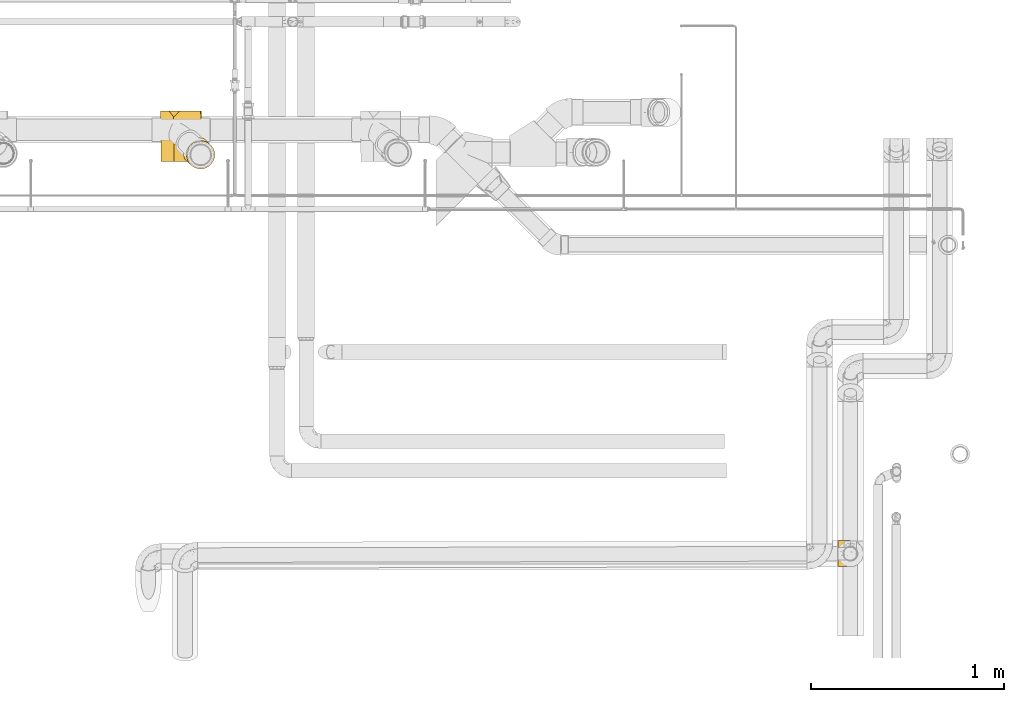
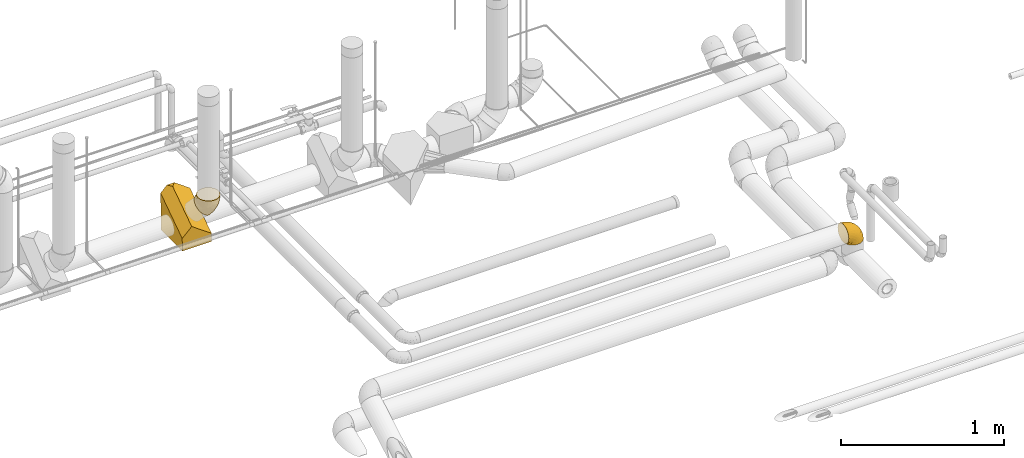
# One storey, part 20 of 156: 3 coverings.
"""IFC2X3 building model written with IfcOpenShell, lengths in millimetres."""

from ifc_helpers import new_model, entity, si_unit, converted_unit, derived_unit, direction, frame, origin_with_axes, place, context, subcontext, project, spatial, open_shell, surface_model, source, transform, mapped, element, save


model = new_model("IFC2X3")

# Units and contexts
model_context = context("Model", 3, precision=0.01, world=frame((0.0, 4.29681676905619e-09, 0.0)), true_north=direction((4.01073788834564e-13, 1.0)))
plan_context = context("Plan", 3, precision=0.01, world=frame((0.0, 4.29681676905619e-09, 0.0)), true_north=direction((4.01073788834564e-13, 1.0)))
body_context = subcontext(model_context, "Body", "Model", "MODEL_VIEW")
ifc_project = project(units=[converted_unit("PLANEANGLEUNIT", "DEGREE", entity("IfcPositiveLengthMeasure", 0.0174532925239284), si_unit("PLANEANGLEUNIT", "RADIAN"), dimensions=[0, 0, 0, 0, 0, 0, 0]), si_unit("AREAUNIT", "SQUARE_METRE"), si_unit("LENGTHUNIT", "METRE", prefix="MILLI"), si_unit("MASSUNIT", "GRAM", prefix="KILO"), si_unit("POWERUNIT", "WATT"), si_unit("PRESSUREUNIT", "PASCAL", prefix="KILO"), si_unit("FORCEUNIT", "NEWTON", prefix="KILO"), si_unit("ELECTRICVOLTAGEUNIT", "VOLT"), si_unit("ELECTRICCURRENTUNIT", "AMPERE"), si_unit("THERMODYNAMICTEMPERATUREUNIT", "DEGREE_CELSIUS"), si_unit("TIMEUNIT", "SECOND"), si_unit("VOLUMEUNIT", "CUBIC_METRE"), derived_unit("LINEARVELOCITYUNIT", [(si_unit("LENGTHUNIT", "METRE"), 1), (si_unit("TIMEUNIT", "SECOND"), -1)]), derived_unit("VOLUMETRICFLOWRATEUNIT", [(si_unit("VOLUMEUNIT", "CUBIC_METRE"), 1), (si_unit("TIMEUNIT", "SECOND"), -1)]), derived_unit("THERMALTRANSMITTANCEUNIT", [(si_unit("POWERUNIT", "WATT"), 1), (si_unit("THERMODYNAMICTEMPERATUREUNIT", "KELVIN"), -1), (si_unit("AREAUNIT", "SQUARE_METRE"), -1)]), derived_unit("SOUNDPRESSUREUNIT", [(si_unit("PRESSUREUNIT", "PASCAL"), 1)])], contexts=[model_context, plan_context])

# Site, building, storey
site_placement = place(None, frame((0.0, -4.29681676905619e-09, 0.0), z_axis=(0.0, 0.0, 1.0), x_axis=(1.0, 0.0, 0.0)))
site = spatial("IfcSite", under=ifc_project, at=site_placement, CompositionType="ELEMENT")
building_placement = place(site_placement, frame((0.0, 4.29681676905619e-09, 0.0), z_axis=(0.0, 0.0, 1.0), x_axis=(1.0, 0.0, 0.0)))
building = spatial("IfcBuilding", under=site, at=building_placement, Name="mc-building", CompositionType="ELEMENT")
storey_placement = place(building_placement, frame((0.0, 0.0, 205200.0), z_axis=(0.0, 0.0, 1.0), x_axis=(1.0, 0.0, 0.0)))
storey = spatial("IfcBuildingStorey", under=building, at=storey_placement, Name="Nivå D + 1,2 m", CompositionType="ELEMENT", Elevation=205200.0)

# Coverings
shared_shape_1 = source(origin_with_axes(), body_context, "Body", "SurfaceModel", [
    surface_model("IfcShellBasedSurfaceModel", [(-12.58122, 83.46225, 28.13327), (-7.77579, 78.6588, 40.8417), (-15.54062, 86.42042, 14.34271), (-12.58632, 83.46734, -28.11586), (-16.53996, 87.41936, 0.0), (15.55809, 55.33454, 67.90986), (25.31054, 45.58612, 72.0902), (-1.30927, 72.19494, 51.97971), (6.56966, 64.31926, 61.11944), (-7.78378, 78.66679, -40.82479), (15.54578, 55.34685, -67.90265), (-1.31968, 72.20536, -51.96498), (-15.54288, 86.42269, -14.32665), (6.5577, 64.33122, -61.10815), (35.44311, 35.45773, -73.5), (25.29918, 45.59747, -72.08701), (45.57567, 25.32935, -72.0902), (35.44311, 35.45773, 73.5), (45.58702, 25.318, 72.08701), (64.3285, 6.58425, 61.10815), (55.34044, 15.56861, 67.90265), (78.67, -7.75132, 40.82479), (83.46743, -12.54678, -28.13327), (83.47253, -12.55188, 28.11586), (72.20589, -1.28989, 51.96498), (86.42909, -15.50722, 14.32665), (87.42618, -16.50389, 0.0), (72.19548, -1.27948, -51.97971), (64.31655, 6.5962, -61.11944), (55.32812, 15.58092, -67.90986), (86.42683, -15.50496, -14.34271), (78.662, -7.74334, -40.8417), (-50.13446, 70.99555, -19.0232), (-50.13446, 63.65287, 36.75), (-50.13446, 73.5, 0.0), (-50.13446, 51.97235, -51.97235), (-50.13446, 63.65287, -36.75), (-50.13446, 36.75, -63.65287), (-50.13446, 19.0232, 70.99555), (-50.13446, 19.0232, -70.99555), (-50.13446, 51.97235, 51.97235), (-50.13446, 70.99555, 19.0232), (-50.13446, 36.75, 63.65287), (-50.13446, 0.0, 73.5), (-50.13446, 0.0, -73.5), (-50.13446, -19.0232, -70.99555), (-50.13446, -36.75, -63.65287), (-50.13446, -73.5, 0.0), (-50.13446, -63.65287, -36.75), (-50.13446, -51.97235, -51.97235), (-50.13446, -70.99555, -19.0232), (-50.13446, -36.75, 63.65287), (-50.13446, -19.0232, 70.99555), (-50.13446, -51.97235, 51.97235), (-50.13446, -63.65287, 36.75), (-50.13446, -70.99555, 19.0232), (11.56197, -25.2966, 63.05064), (39.27307, -8.17981, 64.02245), (3.4727, -8.38139, 70.98906), (-12.17956, -69.76078, 0.0), (4.89378, -61.98061, 22.17238), (24.316, -58.68689, 0.0), (40.23653, -21.85895, 55.62466), (50.53557, -29.58967, 42.25433), (-18.80932, 4.12513, 73.5), (57.94897, -40.70412, 0.0), (49.39801, -42.74077, 20.37742), (-20.62466, -26.92586, 67.16985), (-16.46998, -42.66536, 57.25209), (13.13668, -37.39216, 54.27597), (32.03731, -46.93845, 32.41921), (18.59715, -44.89215, 44.40922), (-0.76325, -57.73284, 35.37642), (-16.52493, -53.79354, 46.4087), (10.37995, 16.21925, 73.5), (-41.04347, 75.3088, 0.0), (-29.53815, 16.17325, 72.12135), (-16.18148, 66.52499, 46.63532), (-7.93843, 59.30425, 57.12057), (-1.68036, 33.89365, 70.33875), (-27.47525, 30.93385, 67.90515), (-24.24622, 82.26848, 0.0), (-23.33476, 78.00167, 21.34079), (-21.66437, 52.28372, 56.82324), (-36.78775, 45.92105, 58.31147), (-35.68906, 73.39263, 18.04955), (-36.79561, 59.74703, 44.74396), (-27.99075, 69.36555, 34.6544), (-39.44329, 67.50939, 31.40791), (-18.04555, 74.88335, 34.65411), (-9.79597, 45.50374, 64.41189), (-31.95248, 77.11759, 0.0), (-39.44416, 67.50758, -31.41131), (-27.99377, 69.3743, -34.63712), (-36.78867, 59.74854, -44.74397), (-35.68047, 73.39776, -18.04), (-18.04057, 74.89776, -34.6373), (-16.18779, 66.53644, -46.61941), (-16.39107, 20.02365, -72.04852), (-27.49162, 30.92973, -67.90515), (-1.71147, 33.89563, -70.33364), (-9.80109, 45.52096, -64.40221), (-21.66803, 52.29943, -56.81019), (-7.94652, 59.31916, -57.1069), (-18.80932, 4.12513, -73.5), (-36.78453, 45.92162, -58.31147), (-23.33685, 78.00639, -21.32394), (10.37995, 16.21925, -73.5), (46.48077, -17.34007, -55.88688), (46.40299, -29.46503, -45.43917), (18.22641, -44.64188, -44.89681), (17.54846, -34.95379, -54.77692), (31.28654, -13.92769, -63.74451), (4.83547, -11.67044, -69.93673), (-5.0537, -30.28535, -63.58969), (-17.49595, -44.84146, -55.64237), (-11.72485, -55.06044, -43.55954), (22.17646, -51.2777, -32.67406), (52.84467, -40.56066, -20.4785), (5.46979, -63.33464, -16.86672), (-15.50474, -63.93391, -29.88914), (58.22001, -30.59507, -33.66346)], [open_shell([[[0, 1, 2]], [[3, 4, 2]], [[3, 2, 1]], [[5, 6, 7]], [[7, 8, 5]], [[6, 1, 7]], [[3, 1, 6]], [[3, 6, 9]], [[10, 11, 9]], [[3, 12, 4]], [[13, 11, 10]], [[14, 15, 10]], [[9, 14, 10]], [[14, 9, 6]], [[6, 16, 14]], [[17, 18, 19]], [[20, 19, 18]], [[17, 19, 21]], [[17, 21, 22]], [[21, 23, 22]], [[21, 19, 24]], [[25, 26, 23]], [[27, 28, 29]], [[29, 16, 27]], [[27, 16, 22]], [[30, 22, 23]], [[31, 27, 22]], [[16, 17, 22]], [[26, 30, 23]], [[17, 16, 6]], [[32, 33, 34]], [[35, 32, 36]], [[33, 35, 37]], [[32, 35, 33]], [[38, 37, 39]], [[33, 38, 40]], [[33, 41, 34]], [[40, 38, 42]], [[37, 38, 33]], [[39, 43, 38]], [[39, 44, 43]], [[44, 45, 46]], [[47, 44, 46]], [[47, 46, 48]], [[48, 46, 49]], [[47, 48, 50]], [[43, 51, 52]], [[53, 51, 43]], [[54, 47, 55]], [[47, 54, 53]], [[44, 47, 53]], [[53, 43, 44]], [[56, 57, 58]], [[55, 47, 59]], [[60, 55, 59]], [[60, 59, 61]], [[20, 18, 58]], [[24, 62, 63]], [[52, 58, 64]], [[61, 65, 66]], [[21, 63, 23]], [[67, 68, 56]], [[52, 64, 43]], [[67, 58, 52]], [[51, 53, 68]], [[69, 56, 68]], [[51, 67, 52]], [[66, 60, 61]], [[70, 71, 72]], [[72, 71, 73]], [[19, 57, 62]], [[71, 70, 63]], [[25, 23, 66]], [[25, 65, 26]], [[70, 60, 66]], [[54, 72, 73]], [[71, 69, 73]], [[72, 54, 60]], [[74, 18, 17]], [[58, 74, 64]], [[58, 57, 20]], [[55, 60, 54]], [[58, 18, 74]], [[57, 19, 20]], [[62, 69, 71]], [[73, 68, 53]], [[19, 62, 24]], [[62, 57, 56]], [[53, 54, 73]], [[65, 25, 66]], [[60, 70, 72]], [[62, 71, 63]], [[66, 23, 63]], [[63, 70, 66]], [[63, 21, 24]], [[68, 67, 51]], [[58, 67, 56]], [[56, 69, 62]], [[73, 69, 68]], [[75, 34, 41]], [[43, 64, 76]], [[7, 77, 78]], [[79, 80, 76]], [[2, 81, 82]], [[80, 83, 84]], [[75, 41, 85]], [[84, 86, 40]], [[82, 85, 87]], [[86, 33, 40]], [[86, 87, 88]], [[33, 86, 88]], [[78, 77, 83]], [[88, 41, 33]], [[64, 74, 79]], [[80, 84, 42]], [[0, 89, 1]], [[8, 90, 5]], [[6, 5, 79]], [[6, 74, 17]], [[85, 91, 75]], [[90, 8, 78]], [[80, 79, 90]], [[42, 38, 80]], [[7, 1, 77]], [[40, 42, 84]], [[91, 85, 82]], [[86, 77, 87]], [[76, 80, 38]], [[77, 89, 87]], [[0, 2, 82]], [[82, 87, 89]], [[87, 85, 88]], [[79, 74, 6]], [[41, 88, 85]], [[77, 86, 83]], [[86, 84, 83]], [[1, 89, 77]], [[0, 82, 89]], [[90, 78, 83]], [[7, 78, 8]], [[80, 90, 83]], [[5, 90, 79]], [[81, 2, 4]], [[81, 91, 82]], [[43, 76, 38]], [[79, 76, 64]], [[92, 93, 94]], [[32, 75, 95]], [[96, 9, 97]], [[81, 4, 12]], [[98, 99, 100]], [[101, 102, 103]], [[44, 39, 104]], [[97, 94, 93]], [[101, 99, 102]], [[32, 95, 92]], [[105, 37, 35]], [[39, 37, 99]], [[94, 97, 102]], [[95, 106, 93]], [[12, 3, 106]], [[94, 105, 35]], [[102, 97, 103]], [[100, 101, 10]], [[3, 9, 96]], [[9, 11, 97]], [[36, 94, 35]], [[92, 94, 36]], [[96, 93, 106]], [[103, 11, 13]], [[99, 98, 39]], [[10, 15, 100]], [[15, 14, 107]], [[95, 91, 106]], [[99, 37, 105]], [[107, 100, 15]], [[98, 107, 104]], [[107, 98, 100]], [[32, 92, 36]], [[12, 106, 81]], [[95, 93, 92]], [[105, 94, 102]], [[99, 105, 102]], [[93, 96, 97]], [[3, 96, 106]], [[11, 103, 97]], [[13, 10, 101]], [[101, 103, 13]], [[99, 101, 100]], [[106, 91, 81]], [[75, 32, 34]], [[75, 91, 95]], [[39, 98, 104]], [[28, 27, 108]], [[109, 110, 111]], [[45, 44, 104]], [[112, 108, 111]], [[16, 29, 113]], [[114, 113, 112]], [[115, 116, 49]], [[113, 114, 45]], [[47, 50, 59]], [[115, 111, 110]], [[117, 118, 119]], [[61, 59, 119]], [[116, 48, 49]], [[116, 120, 48]], [[45, 114, 46]], [[115, 46, 114]], [[113, 104, 107]], [[115, 114, 111]], [[107, 14, 16]], [[117, 119, 120]], [[28, 108, 112]], [[59, 50, 119]], [[113, 29, 112]], [[113, 45, 104]], [[120, 50, 48]], [[27, 31, 109]], [[118, 121, 22]], [[111, 108, 109]], [[110, 117, 116]], [[61, 119, 118]], [[30, 26, 65]], [[61, 118, 65]], [[30, 65, 118]], [[117, 109, 121]], [[31, 22, 121]], [[30, 118, 22]], [[114, 112, 111]], [[113, 107, 16]], [[109, 108, 27]], [[112, 29, 28]], [[46, 115, 49]], [[117, 120, 116]], [[50, 120, 119]], [[117, 121, 118]], [[31, 121, 109]], [[117, 110, 109]], [[115, 110, 116]]])]),
])
covering_1_placement = place(storey_placement, frame((326488.40178, 462595.06172, 4377.05914), z_axis=(0.698904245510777, 0.7152152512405, 0.0), x_axis=(0.0, 0.0, -1.0)))
element("IfcCovering", 1, at=covering_1_placement, inside=storey, Name="BI17T - Cellegummi 13 mm SPV fett", PredefinedType="INSULATION", context=body_context, shape_type="MappedRepresentation", body=[
    mapped(shared_shape_1, transform((0.0, 0.0, 0.0), scale=1.0)),
])
shared_shape_2 = source(origin_with_axes(), body_context, "Body", "SurfaceModel", [
    surface_model("IfcShellBasedSurfaceModel", [(-72.06096, -92.30912, 183.72004), (-72.06096, -92.30912, -134.94267), (-3.52579, -145.35116, -97.40325), (-3.52579, -145.35116, 183.18767), (-26.32132, -127.7088, 208.77343), (135.48422, -61.26991, 161.75266), (26.83764, -126.98562, 208.26162), (135.48422, -61.26991, -156.91004), (135.48422, 138.164, 20.60738), (135.48422, -12.09908, -191.7097), (-72.06096, 135.34049, 22.60566), (-72.06096, -14.92258, -189.71142)], [open_shell([[[0, 1, 2]], [[0, 3, 4]], [[3, 0, 2]], [[3, 2, 5]], [[3, 5, 6]], [[5, 2, 7]], [[5, 7, 8]], [[9, 8, 7]], [[6, 0, 4]], [[0, 6, 5]], [[5, 8, 10]], [[5, 10, 0]], [[4, 3, 6]], [[2, 1, 7]], [[7, 11, 9]], [[11, 7, 1]], [[8, 9, 10]], [[11, 10, 9]], [[1, 0, 10]], [[10, 11, 1]]])]),
])
covering_2_placement = place(storey_placement, frame((326355.67931, 462724.75736, 4191.56572000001), z_axis=(-0.00962699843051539, 0.816256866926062, 0.577608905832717), x_axis=(0.999861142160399, 3.14643345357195e-07, 0.0166642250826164)))
element("IfcCovering", 2, at=covering_2_placement, inside=storey, Name="BI17T - Cellegummi 13 mm SPV fett", PredefinedType="INSULATION", context=body_context, shape_type="MappedRepresentation", body=[
    mapped(shared_shape_2, transform((0.0, 0.0, 0.0), scale=1.0)),
])
shared_shape_3 = source(origin_with_axes(), body_context, "Body", "SurfaceModel", [
    surface_model("IfcShellBasedSurfaceModel", [(62.36357, 65.0, 25.82703), (66.2036, 65.0, 13.1656), (47.7349, 65.0, 47.72452), (56.12755, 65.0, 37.49598), (-64.81475, 65.0, -18.84935), (-64.81475, 65.0, 18.84935), (-59.31267, 65.0, 32.22201), (66.20209, 65.0, -13.1732), (67.5, 65.0, 0.0), (56.11983, 65.0, -37.50754), (62.35913, 65.0, -25.83774), (37.49598, 65.0, -56.12755), (25.82703, 65.0, -62.36357), (47.72452, 65.0, -47.7349), (-40.52239, 65.0, -53.98321), (-51.09064, 65.0, -44.11345), (-59.31419, 65.0, -32.21921), (-28.09443, 65.0, -61.37551), (-14.37712, 65.0, -65.95111), (13.1656, 65.0, -66.2036), (-65.0, 64.81475, -18.84935), (-65.0, 57.87557, -34.73714), (-65.0, 47.11836, -48.33333), (-65.0, 33.25277, -58.74099), (-65.0, 17.19351, -65.27353), (-65.0, 57.87557, 34.73714), (-65.0, 33.25277, 58.74099), (-65.0, 47.11836, 48.33333), (-65.0, 0.0, 67.5), (-65.0, 17.19351, 65.27353), (-65.0, 0.0, -67.5), (-65.0, -17.47029, -65.19999), (-65.0, -67.5, 0.0), (-65.0, -58.45672, -33.75), (-65.0, -33.75, -58.45672), (-65.0, -47.72971, -47.72971), (-65.0, -65.19999, -17.47029), (-65.0, -33.75, 58.45672), (-65.0, -47.72971, 47.72971), (-65.0, -17.47029, 65.19999), (-65.0, -58.45672, 33.75), (-65.0, -65.19999, 17.47029), (-65.0, 64.81475, 18.84935), (-64.86901, 64.86901, 18.84935), (-64.86901, 64.86901, -18.84935), (-62.35297, 53.22925, -41.88204), (-63.78423, 60.63473, -29.99667), (-59.45918, 54.28289, -41.88204), (-51.69965, 42.79725, -55.00915), (-58.92632, 41.28656, -53.98417), (-64.97489, 64.82515, -18.84935), (-60.99561, 60.00362, -33.50592), (-62.83434, 60.76841, -30.4404), (-64.90176, 64.85544, -18.84935), (-50.86682, 28.04405, -62.52499), (-57.92381, 24.04777, -63.29908), (-50.90167, 14.37918, -66.34141), (-37.08653, 31.39033, -64.04773), (-29.58182, 11.99295, -67.5), (-40.36853, 19.80167, -66.13096), (-55.46376, 1.89688, -67.5), (-54.1914, 53.04137, -46.55035), (-23.48796, 51.53459, -64.03169), (-35.44219, 58.51372, -57.87452), (0.0, 65.0, -67.5), (-1.89688, 55.46376, -67.5), (-19.03806, 19.03806, -67.5), (-28.84083, 40.49015, -64.04563), (-45.93357, 58.13982, -50.54557), (-64.83555, 64.94978, -18.84935), (-43.55475, 44.96694, -57.31565), (-4.94783, 40.12558, -67.5), (-64.85228, 64.9094, -18.84935), (-55.95504, 62.1673, -38.38718), (-59.35288, 60.73167, -34.6609), (-37.17686, 51.38247, -58.29815), (-49.05026, 54.8073, -49.33215), (-11.99295, 29.58182, -67.5), (-64.9345, 64.84188, -18.84935), (-40.12558, 4.94783, -67.5), (-52.74634, 2.4374, -67.5), (-42.51157, -9.52295, -66.2671), (62.98517, 30.70648, 0.0), (60.34861, 32.11006, -19.59988), (7.28209, 26.69247, -65.37446), (17.51571, 46.37925, -64.59456), (25.45053, 30.47784, -59.53215), (-9.86721, -24.12514, -54.51842), (-12.17277, -41.13061, -41.0914), (-38.26551, -37.66767, -53.55135), (-32.07934, -19.65533, -62.36187), (-9.01246, -1.18966, -63.9192), (38.39188, 36.73619, -52.6938), (30.43395, 48.7077, -59.53215), (-49.4847, -21.90434, -63.359), (28.69165, -28.69165, 0.0), (38.50326, -14.42084, -16.45739), (49.74837, -1.25, 0.0), (-26.34544, -2.34013, -66.30486), (-28.9987, -57.16772, -25.83113), (-40.01142, -50.88785, -41.0914), (-40.23864, -63.93244, -12.73067), (13.27406, -37.00874, -22.67012), (18.34903, -3.39087, -52.18245), (35.48999, 13.46262, -47.52341), (28.03747, -10.89182, -39.04005), (-2.47392, 52.56279, -67.5), (13.31742, 11.06376, -60.42055), (48.33699, 35.26235, -42.82742), (1.25, -49.74837, 0.0), (55.58243, 33.90777, -31.82524), (47.1962, 10.97433, -31.82591), (10.54857, -30.74404, -36.21718), (1.99991, -27.22627, -46.43081), (-14.75381, -56.30503, -12.67322), (-7.01775, -49.35414, -23.6696), (51.32465, 7.6704, -19.29111), (-30.70648, -62.98517, 0.0), (0.244, 12.31909, -64.81242), (3.6701, -5.45972, -58.66435), (36.98055, -9.37937, -28.42458), (48.52829, 33.96524, 42.18547), (51.34601, 20.59434, 31.81466), (57.75615, 44.0433, 31.81466), (-28.34115, -60.77084, 14.13005), (-16.26073, -52.66703, 25.83113), (-42.88385, -60.42696, 25.83113), (37.5083, -13.65738, 20.81995), (22.2387, 22.99208, 59.52614), (16.82988, 43.52884, 64.59175), (5.27267, 25.31169, 65.6474), (35.12366, 13.6505, 47.93511), (15.62004, -0.76277, 55.06473), (25.58961, -9.33201, 42.81638), (-34.31666, -49.51181, 41.0914), (-2.14331, -36.32511, 40.18049), (-17.725, -29.97609, 53.55135), (-5.8464, -51.68872, 14.94009), (14.49533, -38.60032, 15.96281), (39.0394, -2.37839, 32.87761), (-42.65822, -9.03699, 66.36346), (-39.32482, -22.1268, 62.36187), (-52.74634, 2.4374, 67.5), (18.51015, -28.28032, 30.53115), (-42.63776, -38.70783, 53.55135), (52.44199, 9.85636, 19.0918), (61.41574, 36.47263, 19.59063), (39.29703, 37.63428, 52.17338), (37.50754, 65.0, 56.11983), (25.83774, 65.0, 62.35913), (13.1732, 65.0, 66.20209), (28.75854, 40.82432, 59.5265), (-0.80851, -10.86712, 58.08848), (-25.06949, -14.2506, 63.18685), (-6.08758, 12.63645, 66.07007), (-29.58182, 11.99295, 67.5), (-27.583, -2.4399, 66.40218), (-40.12558, 4.94783, 67.5), (-2.47392, 52.56279, 67.5), (-4.94783, 40.12558, 67.5), (8.13231, 9.85971, 62.04196), (4.6081, -20.53967, 50.05704), (-11.99295, 29.58182, 67.5), (-19.03806, 19.03806, 67.5), (-12.13012, -4.71198, 63.64217), (0.0, 65.0, 67.5), (-55.46376, 1.89688, 67.5), (-51.31051, 50.10809, 50.51452), (-58.83063, 56.06256, 40.31262), (-53.07544, 43.62194, 53.98417), (-61.39668, 53.48595, 41.88204), (-59.33203, 41.18634, 53.98417), (-38.67692, 30.21324, 64.02579), (-40.80843, 18.77841, 66.26938), (-53.18292, 27.23963, 62.52499), (-62.39323, 61.71268, 29.30964), (-62.71992, 60.35042, 31.2673), (-24.35909, 37.3903, 65.60842), (-55.876, 57.84764, 41.27918), (-48.33586, 52.86998, 50.85179), (-52.15697, 58.33043, 44.75633), (-50.72259, 13.73618, 66.46323), (-63.72097, 60.14876, 30.95628), (-23.37818, 51.86775, 64.03271), (-1.89688, 55.46376, 67.5), (-14.37401, 65.0, 65.95178), (-38.9734, 49.10623, 58.01476), (-28.09151, 65.0, 61.37685), (-40.51981, 65.0, 53.98514), (-36.16929, 55.0609, 58.01476), (-61.49541, 62.05581, 30.08872), (-64.85228, 64.9094, 18.84935), (-46.94651, 59.30387, 49.33434), (-64.83555, 64.94978, 18.84935), (-57.76525, 62.98421, 35.37213), (-51.08854, 65.0, 44.11588), (-59.8704, 62.17048, 32.53464), (-45.47025, 40.87928, 58.33251), (-64.9094, 64.85228, 18.84935), (-64.94978, 64.83555, 18.84935)], [open_shell([[[0, 1, 2]], [[2, 3, 0]], [[4, 5, 6]], [[7, 4, 8]], [[9, 7, 10]], [[11, 12, 13]], [[13, 7, 9]], [[14, 15, 4]], [[16, 4, 15]], [[14, 4, 17]], [[17, 4, 18]], [[4, 12, 19]], [[8, 4, 1]], [[20, 21, 22]], [[22, 23, 24]], [[25, 26, 27]], [[26, 28, 29]], [[22, 24, 30]], [[31, 32, 22]], [[33, 31, 34]], [[31, 33, 32]], [[33, 34, 35]], [[36, 32, 33]], [[37, 32, 38]], [[39, 28, 37]], [[40, 32, 41]], [[32, 40, 38]], [[31, 22, 30]], [[20, 42, 43]], [[44, 20, 43]], [[5, 4, 43]], [[44, 43, 4]], [[45, 46, 47]], [[48, 49, 47]], [[21, 20, 50]], [[45, 49, 22]], [[51, 52, 53]], [[49, 54, 55]], [[24, 55, 56]], [[57, 58, 59]], [[56, 55, 54]], [[24, 56, 60]], [[47, 61, 48]], [[17, 62, 63]], [[21, 45, 22]], [[18, 64, 65]], [[66, 57, 67]], [[68, 14, 63]], [[14, 68, 15]], [[49, 23, 22]], [[49, 48, 54]], [[69, 4, 16]], [[51, 61, 47]], [[57, 70, 67]], [[71, 62, 65]], [[72, 73, 74]], [[16, 73, 69]], [[18, 65, 62]], [[18, 62, 17]], [[56, 54, 59]], [[62, 75, 63]], [[16, 15, 73]], [[74, 76, 61]], [[48, 57, 54]], [[70, 48, 61]], [[75, 70, 76]], [[50, 46, 21]], [[49, 45, 47]], [[61, 51, 74]], [[70, 61, 76]], [[72, 69, 73]], [[73, 76, 74]], [[67, 75, 62]], [[48, 70, 57]], [[67, 71, 77]], [[46, 50, 78]], [[60, 56, 79]], [[60, 30, 24]], [[59, 54, 57]], [[74, 44, 72]], [[79, 56, 59]], [[52, 47, 46]], [[44, 74, 51]], [[70, 75, 67]], [[68, 63, 75]], [[75, 76, 68]], [[17, 63, 14]], [[76, 73, 68]], [[15, 68, 73]], [[46, 78, 52]], [[21, 46, 45]], [[53, 44, 51]], [[51, 47, 52]], [[52, 78, 53]], [[24, 23, 55]], [[49, 55, 23]], [[58, 57, 66]], [[58, 79, 59]], [[71, 67, 62]], [[77, 66, 67]], [[80, 81, 31]], [[80, 79, 81]], [[7, 82, 83]], [[84, 85, 86]], [[87, 88, 89]], [[87, 90, 91]], [[92, 86, 93]], [[81, 94, 31]], [[95, 96, 97]], [[12, 85, 19]], [[66, 91, 98]], [[10, 7, 83]], [[99, 33, 100]], [[36, 101, 32]], [[96, 95, 102]], [[33, 99, 36]], [[33, 35, 100]], [[34, 89, 35]], [[94, 89, 34]], [[103, 104, 105]], [[64, 19, 106]], [[86, 104, 107]], [[13, 9, 108]], [[92, 13, 108]], [[95, 109, 102]], [[110, 83, 111]], [[93, 85, 12]], [[19, 85, 106]], [[112, 88, 113]], [[114, 101, 99]], [[102, 109, 114]], [[115, 88, 112]], [[97, 96, 116]], [[114, 109, 117]], [[92, 104, 86]], [[116, 82, 97]], [[10, 110, 9]], [[118, 119, 91]], [[7, 8, 82]], [[108, 110, 111]], [[103, 107, 104]], [[84, 71, 85]], [[87, 89, 90]], [[11, 93, 12]], [[100, 89, 88]], [[118, 77, 84]], [[102, 112, 120]], [[83, 116, 111]], [[98, 90, 81]], [[113, 105, 112]], [[84, 107, 118]], [[107, 84, 86]], [[11, 13, 92]], [[85, 93, 86]], [[92, 93, 11]], [[92, 108, 104]], [[108, 111, 104]], [[105, 104, 111]], [[120, 105, 111]], [[105, 120, 112]], [[89, 100, 35]], [[99, 100, 88]], [[31, 30, 80]], [[98, 81, 79]], [[81, 90, 94]], [[98, 79, 58]], [[90, 98, 91]], [[89, 94, 90]], [[34, 31, 94]], [[119, 107, 103]], [[107, 119, 118]], [[101, 114, 117]], [[115, 114, 99]], [[32, 101, 117]], [[99, 101, 36]], [[113, 119, 103]], [[66, 98, 58]], [[87, 91, 119]], [[91, 66, 118]], [[116, 83, 82]], [[88, 115, 99]], [[102, 114, 115]], [[9, 110, 108]], [[10, 83, 110]], [[85, 71, 106]], [[77, 118, 66]], [[77, 71, 84]], [[120, 116, 96]], [[116, 120, 111]], [[102, 120, 96]], [[115, 112, 102]], [[113, 88, 87]], [[119, 113, 87]], [[105, 113, 103]], [[121, 122, 123]], [[32, 117, 124]], [[124, 125, 126]], [[97, 127, 95]], [[128, 129, 130]], [[131, 132, 133]], [[134, 135, 136]], [[137, 138, 125]], [[133, 139, 131]], [[109, 95, 138]], [[140, 39, 141]], [[39, 140, 142]], [[143, 138, 127]], [[144, 141, 37]], [[37, 38, 144]], [[126, 40, 41]], [[131, 139, 122]], [[40, 126, 134]], [[37, 141, 39]], [[95, 127, 138]], [[122, 145, 146]], [[144, 134, 136]], [[121, 2, 147]], [[139, 127, 145]], [[1, 0, 146]], [[2, 148, 147]], [[129, 149, 150]], [[146, 0, 123]], [[8, 1, 82]], [[149, 151, 148]], [[152, 153, 136]], [[40, 134, 38]], [[154, 155, 156]], [[129, 128, 151]], [[157, 140, 156]], [[131, 122, 121]], [[150, 158, 129]], [[145, 82, 146]], [[130, 129, 159]], [[151, 128, 147]], [[82, 1, 146]], [[139, 145, 122]], [[132, 128, 160]], [[3, 123, 0]], [[135, 134, 125]], [[136, 135, 161]], [[143, 133, 135]], [[137, 125, 124]], [[143, 125, 138]], [[161, 133, 132]], [[3, 2, 121]], [[146, 123, 122]], [[121, 123, 3]], [[121, 147, 131]], [[147, 128, 131]], [[132, 131, 128]], [[160, 128, 130]], [[152, 136, 161]], [[154, 162, 163]], [[130, 154, 160]], [[134, 144, 38]], [[141, 144, 136]], [[142, 140, 157]], [[142, 28, 39]], [[156, 153, 164]], [[153, 140, 141]], [[156, 164, 154]], [[127, 97, 145]], [[155, 157, 156]], [[82, 145, 97]], [[143, 127, 139]], [[125, 143, 135]], [[140, 153, 156]], [[136, 153, 141]], [[41, 32, 124]], [[134, 126, 125]], [[41, 124, 126]], [[137, 117, 109]], [[117, 137, 124]], [[109, 138, 137]], [[162, 154, 130]], [[152, 160, 164]], [[154, 163, 155]], [[164, 160, 154]], [[133, 161, 135]], [[152, 161, 132]], [[160, 152, 132]], [[152, 164, 153]], [[148, 151, 147]], [[149, 129, 151]], [[158, 150, 165]], [[158, 159, 129]], [[143, 139, 133]], [[130, 159, 162]], [[29, 28, 166]], [[167, 168, 169]], [[169, 170, 171]], [[171, 27, 26]], [[172, 173, 155]], [[172, 169, 174]], [[168, 175, 176]], [[177, 172, 163]], [[171, 26, 174]], [[178, 179, 180]], [[168, 170, 169]], [[170, 25, 27]], [[174, 181, 173]], [[182, 170, 176]], [[183, 184, 185]], [[186, 180, 179]], [[187, 188, 189]], [[43, 190, 191]], [[177, 183, 186]], [[189, 188, 192]], [[6, 5, 193]], [[183, 177, 159]], [[26, 29, 174]], [[194, 195, 6]], [[185, 184, 165]], [[192, 188, 195]], [[167, 178, 168]], [[186, 183, 189]], [[190, 178, 196]], [[187, 183, 185]], [[181, 166, 157]], [[42, 25, 182]], [[186, 179, 197]], [[169, 171, 174]], [[159, 184, 183]], [[170, 27, 171]], [[177, 186, 197]], [[177, 163, 162]], [[43, 175, 190]], [[175, 178, 190]], [[173, 181, 157]], [[166, 181, 29]], [[29, 181, 174]], [[155, 163, 172]], [[174, 173, 172]], [[173, 157, 155]], [[197, 167, 169]], [[179, 178, 167]], [[169, 172, 197]], [[197, 172, 177]], [[197, 179, 167]], [[180, 186, 192]], [[194, 180, 192]], [[196, 193, 191]], [[195, 194, 192]], [[6, 193, 194]], [[178, 180, 196]], [[180, 194, 196]], [[193, 196, 194]], [[191, 190, 196]], [[175, 168, 178]], [[43, 198, 175]], [[199, 182, 176]], [[176, 175, 198]], [[199, 176, 198]], [[170, 168, 176]], [[42, 182, 199]], [[25, 170, 182]], [[189, 183, 187]], [[192, 186, 189]], [[159, 177, 162]], [[1, 148, 2]], [[64, 4, 19]], [[149, 165, 150]], [[1, 149, 148]], [[185, 188, 187]], [[185, 165, 149]], [[25, 42, 20]], [[195, 188, 6]], [[4, 6, 188]], [[4, 185, 149]], [[18, 4, 64]], [[188, 185, 4]], [[1, 4, 149]], [[13, 12, 7]], [[4, 7, 12]], [[20, 22, 25]], [[22, 32, 25]], [[28, 26, 25]], [[25, 37, 28]], [[32, 37, 25]]])]),
])
covering_3_placement = place(storey_placement, frame((329857.42979, 460526.64514, 4232.60000000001), z_axis=(0.00219499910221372, -0.999997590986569, 0.0), x_axis=(0.0, 0.0, 1.0)))
element("IfcCovering", 3, at=covering_3_placement, inside=storey, Name="BI10T - Cellegummi 18-32 mm kalde rør", PredefinedType="INSULATION", context=body_context, shape_type="MappedRepresentation", body=[
    mapped(shared_shape_3, transform((0.0, 0.0, 0.0), scale=1.0)),
])

save(model, "model.ifc")
